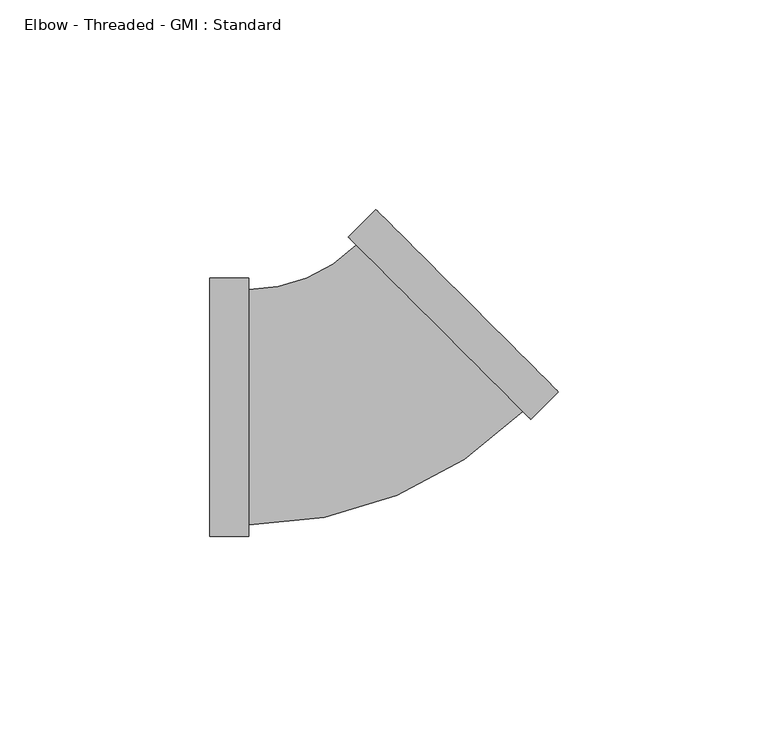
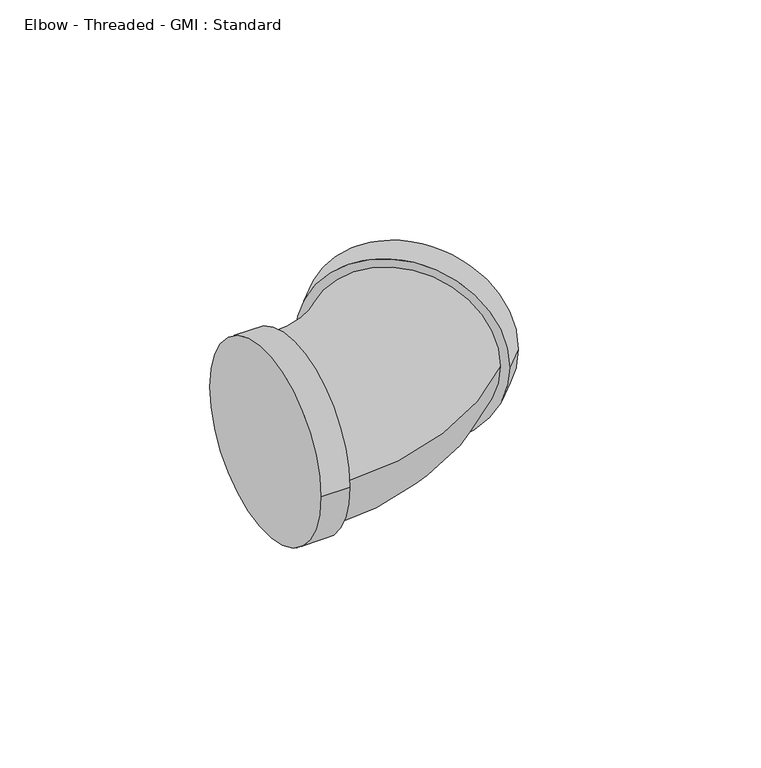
"""IFC4 building model written with IfcOpenShell, lengths in millimetres: pipe fitting geometry, Elbow - Threaded - GMI : Standard."""

from ifc_helpers import new_model, si_unit, point, frame, origin, place, context, project, spatial, circle_curve, ellipse_curve, trimmed, source, transform, mapped, element, save
from ifc_brep_helpers import plane_surface, cylinder_surface, revolved_surface, advanced_brep


def elbow_threaded_gmi_standard_8d91801a(model_context):
    return source(origin(), model_context, "Body", "AdvancedBrep", [
        advanced_brep(
        [(-36.0, -30.8, 0.0), (-36.0, 30.8, 0.0), (-26.7, -30.8, 0.0), (-26.7, 30.8, 0.0), (-26.7, -28.09, 0.0), (-26.7, 28.09, 0.0), (40.6586399, -2.8991378, 0.0), (-2.8991378, 40.6586399, 0.0), (-0.9828784, 38.7423805, 0.0), (38.7423805, -0.9828784, 0.0), (47.234733, 3.6769553, 0.0), (3.6769553, 47.234733, 0.0)],
        [
            (0, 1, circle_curve(frame((-36.0, 0.0, 0.0), z_axis=(-1.0, 0.0, 0.0), x_axis=(0.0, 1.0, 0.0)), 30.8)),
            (1, 0, circle_curve(frame((-36.0, 0.0, 0.0), z_axis=(-1.0, 0.0, 0.0), x_axis=(0.0, 1.0, 0.0)), 30.8)),
            (2, 3, circle_curve(frame((-26.7, 0.0, 0.0), z_axis=(1.0, 0.0, 0.0), x_axis=(0.0, 1.0, 0.0)), 30.8)),
            (3, 2, circle_curve(frame((-26.7, 0.0, 0.0), z_axis=(1.0, 0.0, 0.0), x_axis=(0.0, 1.0, 0.0)), 30.8)),
            (4, 5, circle_curve(frame((-26.7, 0.0, 0.0), z_axis=(-1.0, 0.0, 0.0), x_axis=(0.0, 1.0, 0.0)), 28.09)),
            (5, 4, circle_curve(frame((-26.7, 0.0, 0.0), z_axis=(-1.0, 0.0, 0.0), x_axis=(0.0, 1.0, 0.0)), 28.09)),
            (0, 2),
            (3, 1),
            (6, 7, circle_curve(frame((18.8797511, 18.8797511, 0.0), z_axis=(-0.7071067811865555, -0.7071067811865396, 0.0), x_axis=(-0.7071067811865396, 0.7071067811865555, 0.0)), 30.8)),
            (7, 6, circle_curve(frame((18.8797511, 18.8797511, 0.0), z_axis=(-0.7071067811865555, -0.7071067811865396, 0.0), x_axis=(-0.7071067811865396, 0.7071067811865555, 0.0)), 30.8)),
            (8, 9, circle_curve(frame((18.8797511, 18.8797511, 0.0), z_axis=(0.7071067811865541, 0.7071067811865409, 0.0), x_axis=(-0.7071067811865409, 0.7071067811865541, 0.0)), 28.09)),
            (9, 8, circle_curve(frame((18.8797511, 18.8797511, 0.0), z_axis=(0.7071067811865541, 0.7071067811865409, 0.0), x_axis=(-0.7071067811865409, 0.7071067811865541, 0.0)), 28.09)),
            (10, 11, circle_curve(frame((25.4558441, 25.4558441, 0.0), z_axis=(0.7071067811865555, 0.7071067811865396, 0.0), x_axis=(-0.7071067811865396, 0.7071067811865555, 0.0)), 30.8)),
            (11, 10, circle_curve(frame((25.4558441, 25.4558441, 0.0), z_axis=(0.7071067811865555, 0.7071067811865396, 0.0), x_axis=(-0.7071067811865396, 0.7071067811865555, 0.0)), 30.8)),
            (6, 10),
            (11, 7),
            (8, 5, circle_curve(frame((-26.7, 64.4595021, 0.0), z_axis=(0.0, 0.0, -1.0), x_axis=(0.0, -1.0, 0.0)), 36.3695021)),
            (4, 9, circle_curve(frame((-26.7, 64.4595021, 0.0), z_axis=(0.0, 0.0, 1.0), x_axis=(0.0, -1.0, 0.0)), 92.5495021)),
        ],
        [
            plane_surface(frame((-36.0, 0.0, 0.0), z_axis=(-1.0, 0.0, 0.0), x_axis=(0.0, 0.0, 1.0))),
            plane_surface(frame((-26.7, 0.0, 0.0), z_axis=(1.0, 0.0, 0.0), x_axis=(0.0, 0.0, 1.0))),
            cylinder_surface(frame((-36.0, 0.0, 0.0), z_axis=(-1.0, 0.0, 0.0), x_axis=(0.0, 1.0, 0.0)), 30.8),
            plane_surface(frame((18.8797511, 18.8797511, 0.0), z_axis=(-0.7071067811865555, -0.7071067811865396, 0.0), x_axis=(0.0, 0.0, 1.0))),
            plane_surface(frame((25.4558441, 25.4558441, 0.0), z_axis=(0.7071067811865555, 0.7071067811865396, 0.0), x_axis=(0.0, 0.0, 1.0))),
            cylinder_surface(frame((18.8797511, 18.8797511, 0.0), z_axis=(-0.7071067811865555, -0.7071067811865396, 0.0), x_axis=(-0.7071067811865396, 0.7071067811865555, 0.0)), 30.8),
            revolved_surface(trimmed(ellipse_curve(frame((-26.7, 0.0, 0.0), z_axis=(-1.0, 0.0, 0.0), x_axis=(0.0, 1.0, 0.0)), 28.09, 28.09), [point((-26.7, -28.09, 0.0))], [point((-26.7, 28.09, 0.0))], True, "CARTESIAN"), (-26.7, 64.4595021, 0.0), (0.0, 0.0, 1.0)),
            revolved_surface(trimmed(ellipse_curve(frame((-26.7, 0.0, 0.0), z_axis=(-1.0, 0.0, 0.0), x_axis=(0.0, 1.0, 0.0)), 28.09, 28.09), [point((-26.7, 28.09, 0.0))], [point((-26.7, -28.09, 0.0))], True, "CARTESIAN"), (-26.7, 64.4595021, 0.0), (0.0, 0.0, 1.0)),
        ],
        [
            (0, [[1, 2]]),
            (1, [[3, 4], [5, 6]]),
            (2, [[-1, 7, -4, 8]]),
            (2, [[-2, -8, -3, -7]]),
            (3, [[9, 10], [11, 12]]),
            (4, [[13, 14]]),
            (5, [[-9, 15, -14, 16]]),
            (5, [[-10, -16, -13, -15]]),
            (6, [[17, -5, 18, -11]]),
            (7, [[-17, -12, -18, -6]]),
        ],
    ),
    ])


if __name__ == "__main__":
    model = new_model("IFC4")
    model_context = context("Model", 3, world=origin())
    ifc_project = project(units=[si_unit("LENGTHUNIT", "METRE", prefix="MILLI")], contexts=[model_context])
    site = spatial("IfcSite", under=ifc_project)
    building = spatial("IfcBuilding", under=site)
    placement = place(None, origin())
    elbow_threaded_gmi_standard_shape = elbow_threaded_gmi_standard_8d91801a(model_context)
    element("IfcPipeFitting", 1, ObjectType="Elbow - Threaded - GMI : Standard", at=placement, inside=building, context=model_context, shape_type="MappedRepresentation", body=[
        mapped(elbow_threaded_gmi_standard_shape, transform((0.0, 0.0, 0.0), x_axis=(1.0, 0.0, 0.0), y_axis=(0.0, 1.0, 0.0), z_axis=(0.0, 0.0, 1.0))),
    ])
    save(model, "model.ifc")
